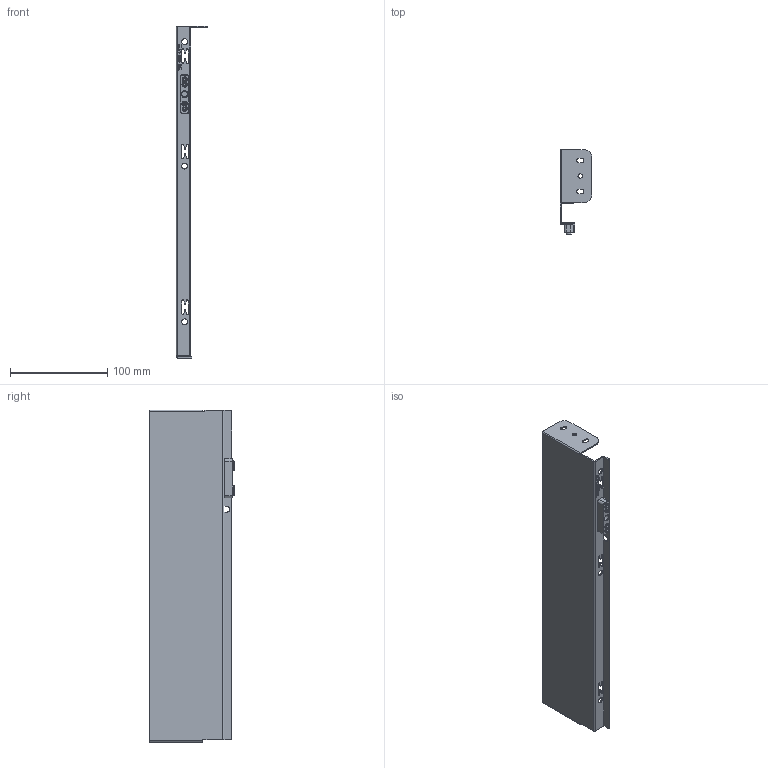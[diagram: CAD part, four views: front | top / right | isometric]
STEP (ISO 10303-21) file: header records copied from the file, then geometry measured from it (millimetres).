
FILE_DESCRIPTION (( 'STEP AP203' ), '1' );
FILE_NAME ('HL11350L.STEP', '2021-07-31T00:30:59', ( 'Users' ), ( 'Microsoft' ), 'SwSTEP 2.0', 'SolidWorks 2018', '' );
FILE_SCHEMA (( 'CONFIG_CONTROL_DESIGN' ));
Length unit declared in the file: millimetre
Products named in the file (1): HL11350L
Bounding box: 32.6 x 86.7 x 341.2 mm (x, y, z)
Volume: 44884.3 mm3; surface area: 73088.8 mm2
Topology: 1 solids, 1 shells, 404 faces, 1092 edges, 706 vertices
Faces by surface type: plane 152, cylinder 142, torus 55, bspline 53, cone 2
Entity records: 15666 total; most frequent: CARTESIAN_POINT 5424, ORIENTED_EDGE 2176, DIRECTION 2083, EDGE_CURVE 1088, AXIS2_PLACEMENT_3D 753, VERTEX_POINT 706, LINE 577, VECTOR 577
